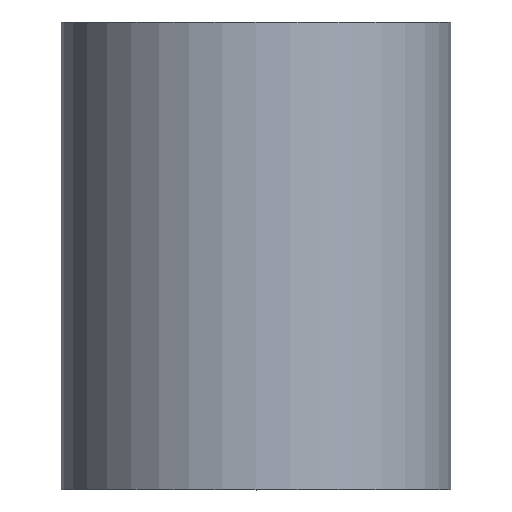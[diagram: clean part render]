
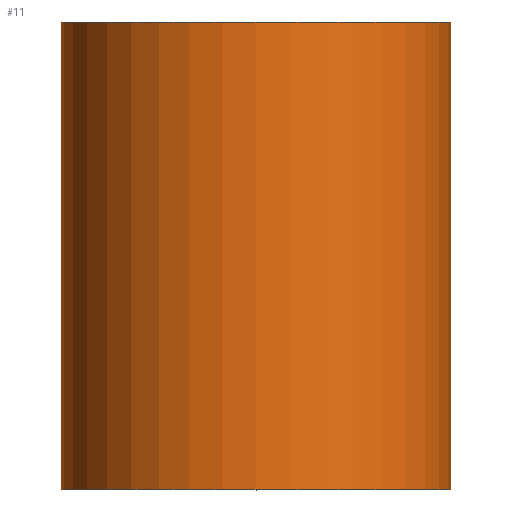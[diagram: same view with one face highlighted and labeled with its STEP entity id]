
A CAD part, top view. The second image highlights one B-rep face of the part: STEP entity #11.
In plain terms, the highlighted cylindrical face has radius 2.5 mm (diameter 5 mm), a partial arc.
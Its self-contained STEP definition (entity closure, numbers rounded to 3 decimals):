
#3 = DIRECTION ( 'NONE',  ( -1., 0., 0. ) ) ;
#6 = CIRCLE ( 'NONE', #190, 2.5 ) ;
#8 = DIRECTION ( 'NONE',  ( 0., 1., 0. ) ) ;
#11 = ADVANCED_FACE ( 'NONE', ( #127 ), #297, .T. ) ;
#17 = EDGE_CURVE ( 'NONE', #251, #215, #248, .T. ) ;
#25 = EDGE_CURVE ( 'NONE', #67, #102, #6, .T. ) ;
#31 = ORIENTED_EDGE ( 'NONE', *, *, #244, .F. ) ;
#51 = DIRECTION ( 'NONE',  ( 0., 1., 0. ) ) ;
#58 = EDGE_LOOP ( 'NONE', ( #100, #232, #94, #31 ) ) ;
#59 = LINE ( 'NONE', #88, #268 ) ;
#60 = CARTESIAN_POINT ( 'NONE',  ( 2.5, 6., 0. ) ) ;
#61 = AXIS2_PLACEMENT_3D ( 'NONE', #255, #208, #3 ) ;
#67 = VERTEX_POINT ( 'NONE', #262 ) ;
#78 = DIRECTION ( 'NONE',  ( -1., 0., 0. ) ) ;
#88 = CARTESIAN_POINT ( 'NONE',  ( 2.5, 0., 0. ) ) ;
#94 = ORIENTED_EDGE ( 'NONE', *, *, #25, .F. ) ;
#100 = ORIENTED_EDGE ( 'NONE', *, *, #17, .T. ) ;
#102 = VERTEX_POINT ( 'NONE', #60 ) ;
#127 = FACE_OUTER_BOUND ( 'NONE', #58, .T. ) ;
#138 = CARTESIAN_POINT ( 'NONE',  ( -2.5, 0., 0. ) ) ;
#152 = LINE ( 'NONE', #138, #289 ) ;
#167 = EDGE_CURVE ( 'NONE', #215, #102, #59, .T. ) ;
#173 = AXIS2_PLACEMENT_3D ( 'NONE', #189, #51, #211 ) ;
#177 = CARTESIAN_POINT ( 'NONE',  ( 2.5, 0., 0. ) ) ;
#189 = CARTESIAN_POINT ( 'NONE',  ( 0., 0., 0. ) ) ;
#190 = AXIS2_PLACEMENT_3D ( 'NONE', #217, #8, #78 ) ;
#208 = DIRECTION ( 'NONE',  ( 0., 1., 0. ) ) ;
#211 = DIRECTION ( 'NONE',  ( -1., 0., 0. ) ) ;
#215 = VERTEX_POINT ( 'NONE', #177 ) ;
#217 = CARTESIAN_POINT ( 'NONE',  ( 0., 6., 0. ) ) ;
#232 = ORIENTED_EDGE ( 'NONE', *, *, #167, .T. ) ;
#244 = EDGE_CURVE ( 'NONE', #251, #67, #152, .T. ) ;
#246 = DIRECTION ( 'NONE',  ( 0., 1., 0. ) ) ;
#248 = CIRCLE ( 'NONE', #173, 2.5 ) ;
#251 = VERTEX_POINT ( 'NONE', #267 ) ;
#255 = CARTESIAN_POINT ( 'NONE',  ( 0., 0., 0. ) ) ;
#262 = CARTESIAN_POINT ( 'NONE',  ( -2.5, 6., 0. ) ) ;
#267 = CARTESIAN_POINT ( 'NONE',  ( -2.5, 0., 0. ) ) ;
#268 = VECTOR ( 'NONE', #246, 1000. ) ;
#289 = VECTOR ( 'NONE', #298, 1000. ) ;
#297 = CYLINDRICAL_SURFACE ( 'NONE', #61, 2.5 ) ;
#298 = DIRECTION ( 'NONE',  ( 0., 1., 0. ) ) ;
